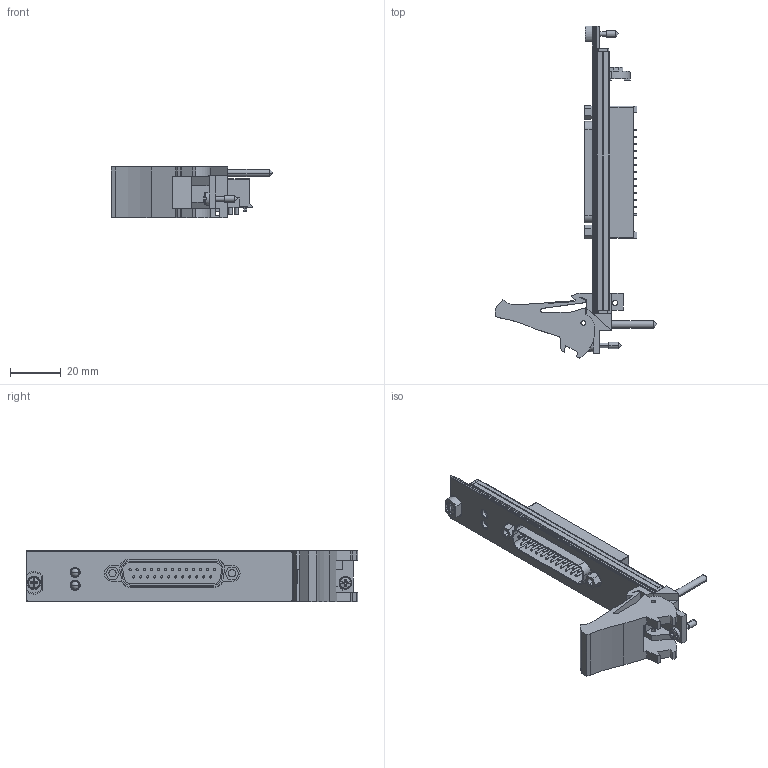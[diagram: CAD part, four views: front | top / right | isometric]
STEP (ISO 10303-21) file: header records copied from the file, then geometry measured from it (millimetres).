
FILE_DESCRIPTION((''),'2;1');
FILE_NAME('CU_PXIE-4143','2012-06-20T',('jjorden'),(''),'PRO/ENGINEER BY PARAMETRIC TECHNOLOGY CORPORATION, 2010230','PRO/ENGINEER BY PARAMETRIC TECHNOLOGY CORPORATION, 2010230','');
FILE_SCHEMA(('CONFIG_CONTROL_DESIGN'));
Length unit declared in the file: inch
Products named in the file (1): CU_PXIE-4143
Bounding box: 63.53 x 130.5 x 20.32 mm (x, y, z)
Volume: 22837.5 mm3; surface area: 20318.2 mm2
Topology: 5 solids, 5 shells, 723 faces, 1856 edges, 1201 vertices
Faces by surface type: plane 496, cylinder 201, cone 12, sphere 8, torus 6
Entity records: 22013 total; most frequent: CARTESIAN_POINT 4000, DIRECTION 3742, ORIENTED_EDGE 3696, EDGE_CURVE 1848, VECTOR 1358, LINE 1358, VERTEX_POINT 1201, AXIS2_PLACEMENT_3D 1192
